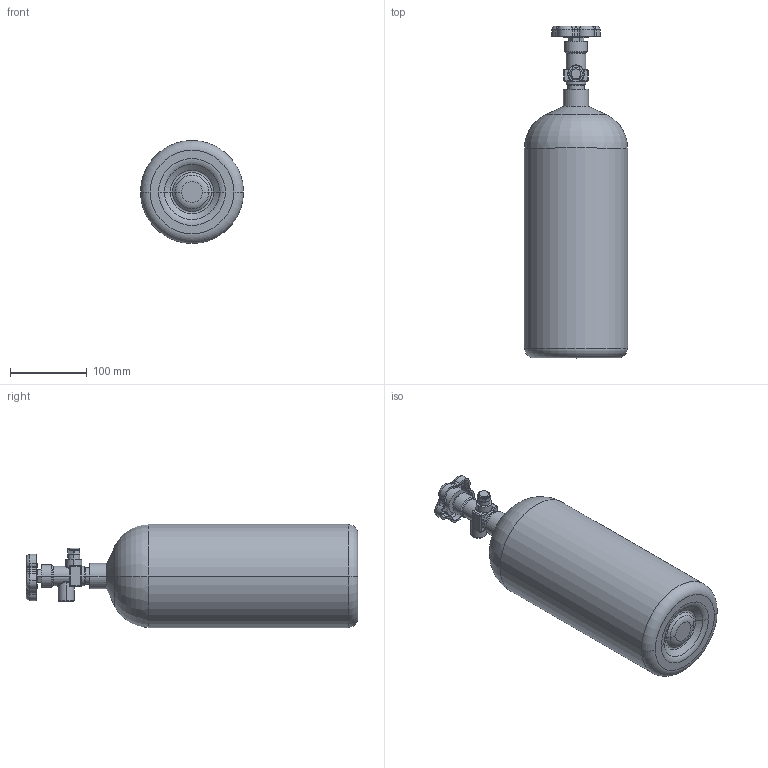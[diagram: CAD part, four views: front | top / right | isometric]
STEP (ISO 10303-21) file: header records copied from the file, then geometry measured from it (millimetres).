
FILE_DESCRIPTION (( 'STEP AP203' ), '1' );
FILE_NAME ('Bevi 5LB Tank.STEP', '2025-11-13T15:23:14', ( '' ), ( '' ), 'SwSTEP 2.0', 'SolidWorks 2025', '' );
FILE_SCHEMA (( 'CONFIG_CONTROL_DESIGN' ));
Length unit declared in the file: inch
Products named in the file (1): Bevi 5LB Tank
Bounding box: 134.11 x 431.8 x 134.11 mm (x, y, z)
Volume: 4418022.7 mm3; surface area: 177419.8 mm2
Topology: 3 solids, 3 shells, 292 faces, 680 edges, 390 vertices
Faces by surface type: cylinder 118, torus 69, plane 49, bspline 26, sphere 18, cone 12
Entity records: 9765 total; most frequent: CARTESIAN_POINT 3017, DIRECTION 1564, ORIENTED_EDGE 1336, AXIS2_PLACEMENT_3D 683, EDGE_CURVE 668, CIRCLE 416, VERTEX_POINT 390, EDGE_LOOP 300
